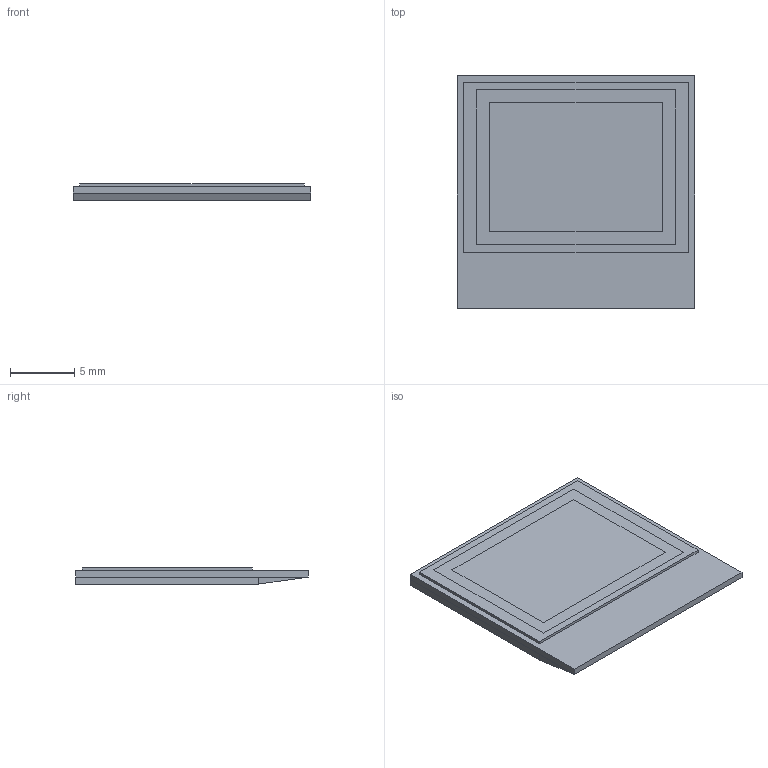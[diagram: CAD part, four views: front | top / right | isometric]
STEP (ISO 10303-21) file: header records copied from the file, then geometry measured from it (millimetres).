
FILE_DESCRIPTION (( 'STEP AP214' ), '1' );
FILE_NAME ('CFAL6448A-066BW_No_Tail.STEP', '2019-07-18T22:35:58', ( '' ), ( '' ), 'SwSTEP 2.0', 'SolidWorks 2015', '' );
FILE_SCHEMA (( 'AUTOMOTIVE_DESIGN' ));
Length unit declared in the file: millimetre
Products named in the file (1): CFAL6448A-066BW_No_Tail
Bounding box: 18.46 x 18.1 x 1.26 mm (x, y, z)
Volume: 379.9 mm3; surface area: 1897.8 mm2
Topology: 4 solids, 4 shells, 25 faces, 53 edges, 38 vertices
Faces by surface type: plane 25
Entity records: 1007 total; most frequent: CARTESIAN_POINT 117, ORIENTED_EDGE 106, DIRECTION 105, VECTOR 53, LINE 53, EDGE_CURVE 53, VERTEX_POINT 38, UNCERTAINTY_MEASURE_WITH_UNIT 31
